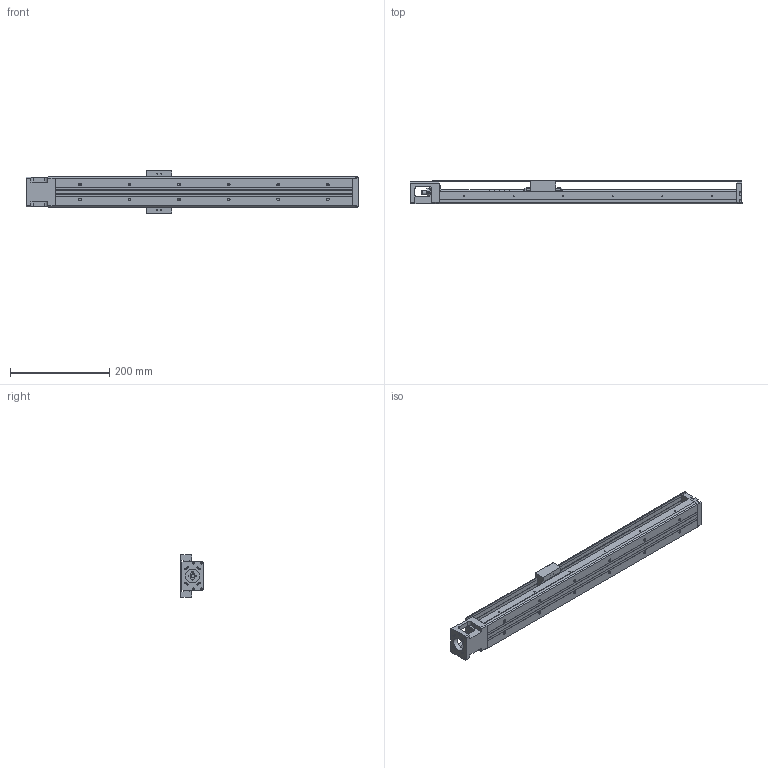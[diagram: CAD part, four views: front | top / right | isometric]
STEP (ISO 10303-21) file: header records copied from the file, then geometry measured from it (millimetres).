
FILE_DESCRIPTION(/* description */ (''),/* implementation_level */ '2;1');
FILE_NAME(/* name */ 'KP33N-600-C-D.stp',/* time_stamp */ '2020-06-04T17:35:03+08:00',/* author */ (''),/* organization */ (''),/* preprocessor_version */ 'ST-DEVELOPER v14',/* originating_system */ 'SIEMENS PLM Software NX 8.0',/* authorisation */ '');
FILE_SCHEMA (('AUTOMOTIVE_DESIGN { 1 0 10303 214 3 1 1 1 }'));
Products named in the file (1): model1
Bounding box: 670 x 47.95 x 86 mm (x, y, z)
Volume: 980322.9 mm3; surface area: 336517.2 mm2
Topology: 10 solids, 24 shells, 1184 faces, 2967 edges, 1964 vertices
Faces by surface type: plane 745, cylinder 311, extrusion 39, bspline 37, cone 32, torus 16, revolution 4
Full cylindrical faces by diameter (mm): 1.6 x10, 1.65 x8, 2.15 x6, 2.42 x8, 2.45 x10, 2.5 x28, 3 x6, 3.2 x4, 3.3 x4, 3.4 x6, 3.5 x14, 3.969 x2, 4 x12, 4.001 x2, 4.135 x8, 4.2 x8, 5.5 x12, 6 x8, 7.6 x1, 8 x6, 9.5 x12, 10.72 x6, 11.8 x4, 12 x6, 12.8 x1, 13 x4, 14 x1, 17.38 x6, 21.5 x1, 22 x4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
Entity records: 52355 total; most frequent: CARTESIAN_POINT 19434, DIRECTION 5430, ORIENTED_EDGE 5132, EDGE_CURVE 2566, AXIS2_PLACEMENT_3D 1886, VERTEX_POINT 1832, EDGE_LOOP 1682, VECTOR 1654
